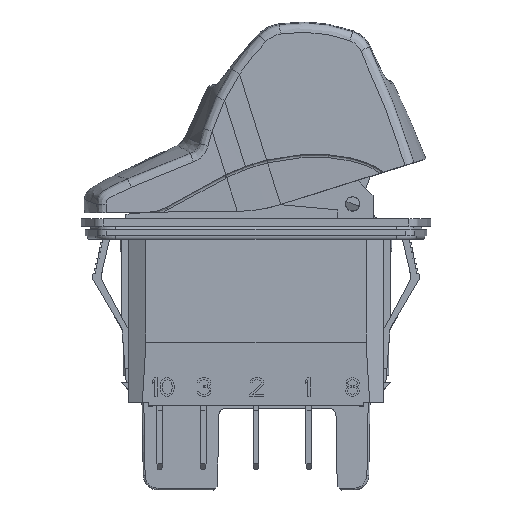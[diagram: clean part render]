
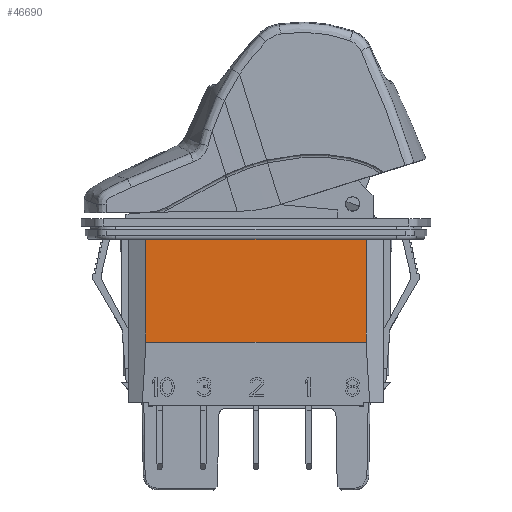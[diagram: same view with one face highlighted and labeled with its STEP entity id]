
A CAD part, top view. The second image highlights one B-rep face of the part: STEP entity #46690.
In plain terms, the highlighted planar face has unit normal (0, 0, 1).
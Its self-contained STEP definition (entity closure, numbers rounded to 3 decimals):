
#4989=DIRECTION('',(0.,1.,0.));
#4990=VECTOR('',#4989,14.3);
#4991=CARTESIAN_POINT('',(14.812,8.1,10.4));
#4992=LINE('',#4991,#4990);
#6401=DIRECTION('',(1.,0.,0.));
#6402=VECTOR('',#6401,29.623);
#6403=CARTESIAN_POINT('',(-14.812,22.4,10.4));
#6404=LINE('',#6403,#6402);
#6405=DIRECTION('',(1.,0.,0.));
#6406=VECTOR('',#6405,29.623);
#6407=CARTESIAN_POINT('',(-14.812,8.1,10.4));
#6408=LINE('',#6407,#6406);
#7049=DIRECTION('',(0.,1.,0.));
#7050=VECTOR('',#7049,14.3);
#7051=CARTESIAN_POINT('',(-14.812,8.1,10.4));
#7052=LINE('',#7051,#7050);
#32921=CARTESIAN_POINT('',(-14.812,8.1,10.4));
#32922=CARTESIAN_POINT('',(14.812,8.1,10.4));
#32923=VERTEX_POINT('',#32921);
#32924=VERTEX_POINT('',#32922);
#38726=CARTESIAN_POINT('',(-14.812,22.4,10.4));
#38727=CARTESIAN_POINT('',(14.812,22.4,10.4));
#38728=VERTEX_POINT('',#38726);
#38729=VERTEX_POINT('',#38727);
#46677=CARTESIAN_POINT('',(-17.15,0.,10.4));
#46678=DIRECTION('',(0.,0.,1.));
#46679=DIRECTION('',(1.,0.,0.));
#46680=AXIS2_PLACEMENT_3D('',#46677,#46678,#46679);
#46681=PLANE('',#46680);
#46682=ORIENTED_EDGE('',*,*,#46666,.T.);
#46683=ORIENTED_EDGE('',*,*,#45400,.F.);
#46685=ORIENTED_EDGE('',*,*,#46684,.F.);
#46687=ORIENTED_EDGE('',*,*,#46686,.T.);
#46688=EDGE_LOOP('',(#46682,#46683,#46685,#46687));
#46689=FACE_OUTER_BOUND('',#46688,.F.);
#46690=ADVANCED_FACE('',(#46689),#46681,.T.);
#45400=EDGE_CURVE('',#32924,#38729,#4992,.T.);
#46666=EDGE_CURVE('',#38728,#38729,#6404,.T.);
#46684=EDGE_CURVE('',#32923,#32924,#6408,.T.);
#46686=EDGE_CURVE('',#32923,#38728,#7052,.T.);
